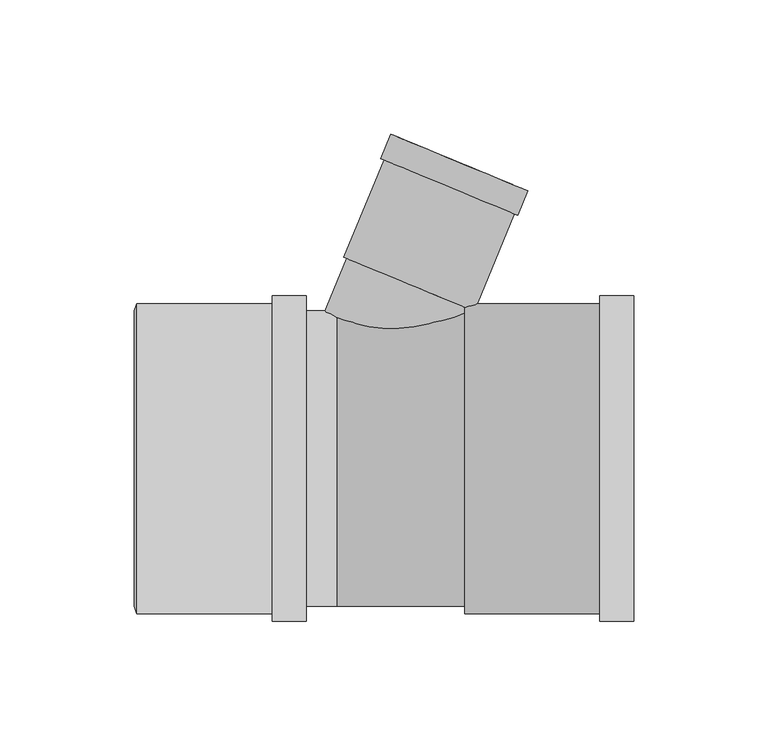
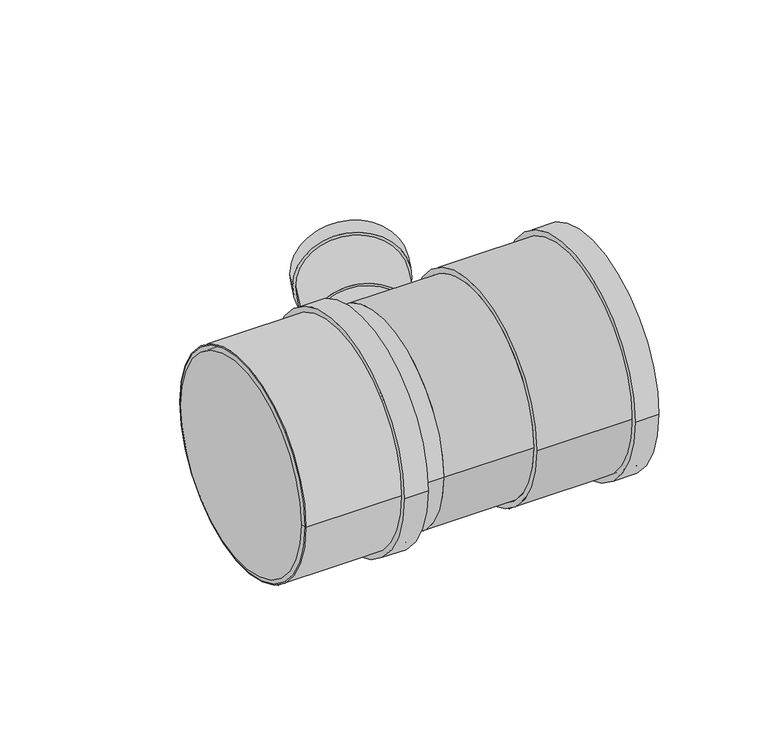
"""IFC4 building model written with IfcOpenShell, lengths in millimetres: pipe fitting geometry, Superdrain HTEA Branch : Superdrain HTEA Branch."""

from ifc_helpers import new_model, si_unit, point, frame, origin, origin_2d, place, context, project, spatial, polyline, circle_curve, trimmed, segment, composite_curve, outline, extrude, source, transform, mapped, element, save
from ifc_brep_helpers import plane_surface, revolved_surface, advanced_brep


def pipe_fitting_8ace9352(model_context):
    return source(origin(), model_context, "Body", "SolidModel", [
        extrude(outline(composite_curve([segment(trimmed(circle_curve(origin_2d(), 57.75), [point((57.75, 0.0))], [point((-57.75, 0.0))], False, "CARTESIAN"), True, "CONTINUOUS"), segment(trimmed(circle_curve(origin_2d(), 57.75), [point((-57.75, 0.0))], [point((57.75, 0.0))], False, "CARTESIAN"), True, "CONTINUOUS")], self_intersect=False), holes=[composite_curve([segment(trimmed(circle_curve(origin_2d(), 55.0), [point((55.0, 0.0))], [point((-55.0, 0.0))], True, "CARTESIAN"), True, "CONTINUOUS"), segment(trimmed(circle_curve(origin_2d(), 55.0), [point((-55.0, 0.0))], [point((55.0, 0.0))], True, "CARTESIAN"), True, "CONTINUOUS")], self_intersect=False)]), frame((-74.4, 0.0, 0.0), z_axis=(1.0, 0.0, 0.0), x_axis=(0.0, 1.0, 0.0)), (0.0, 0.0, 1.0), 63.0),
        extrude(outline(composite_curve([segment(trimmed(circle_curve(origin_2d(), 60.6375), [point((60.6375, 0.0))], [point((-60.6375, 0.0))], False, "CARTESIAN"), True, "CONTINUOUS"), segment(trimmed(circle_curve(origin_2d(), 60.6375), [point((-60.6375, 0.0))], [point((60.6375, 0.0))], False, "CARTESIAN"), True, "CONTINUOUS")], self_intersect=False), holes=[composite_curve([segment(trimmed(circle_curve(origin_2d(), 55.0), [point((55.0, 0.0))], [point((-55.0, 0.0))], True, "CARTESIAN"), True, "CONTINUOUS"), segment(trimmed(circle_curve(origin_2d(), 55.0), [point((-55.0, 0.0))], [point((55.0, 0.0))], True, "CARTESIAN"), True, "CONTINUOUS")], self_intersect=False)]), frame((-24.0, 0.0, 0.0), z_axis=(1.0, 0.0, 0.0), x_axis=(0.0, 1.0, 0.0)), (0.0, 0.0, 1.0), 12.6),
        advanced_brep(
        [(-75.4, 55.0, 0.0), (-75.4, -55.0, 0.0), (-74.4, 57.75, 0.0), (-74.4, -57.75, 0.0)],
        [
            (0, 1, circle_curve(frame((-75.4, 0.0, 0.0), z_axis=(-1.0, 0.0, 0.0), x_axis=(0.0, 1.0, 0.0)), 55.0)),
            (1, 0, circle_curve(frame((-75.4, 0.0, 0.0), z_axis=(-1.0, 0.0, 0.0), x_axis=(0.0, -1.0, 0.0)), 55.0)),
            (2, 3, circle_curve(frame((-74.4, 0.0, 0.0), z_axis=(1.0, 0.0, 0.0), x_axis=(0.0, -1.0, 0.0)), 57.75)),
            (3, 2, circle_curve(frame((-74.4, 0.0, 0.0), z_axis=(1.0, 0.0, 0.0), x_axis=(0.0, 1.0, 0.0)), 57.75)),
            (3, 1),
            (0, 2),
        ],
        [
            plane_surface(frame((-75.4, 0.0, 0.0), z_axis=(-1.0, 0.0, 0.0), x_axis=(0.0, 0.0, -1.0))),
            plane_surface(frame((-74.4, 0.0, 0.0), z_axis=(1.0, 0.0, 0.0), x_axis=(0.0, 0.0, -1.0))),
            revolved_surface(polyline([(-75.4, 55.0, 0.0), (-74.4, 57.75, 0.0)]), (-95.4, 0.0, 0.0), (1.0, 0.0, 0.0)),
            revolved_surface(polyline([(-75.4, -55.0, 0.0), (-74.4, -57.75, 0.0)]), (-95.4, 0.0, 0.0), (1.0, 0.0, 0.0)),
        ],
        [
            (0, [[1, 2]]),
            (1, [[3, 4]]),
            (2, [[-4, 5, -1, 6]]),
            (3, [[-3, -6, -2, -5]]),
        ],
    ),
        extrude(outline(composite_curve([segment(trimmed(circle_curve(origin_2d(), 57.75), [point((-57.75, 0.0))], [point((57.75, 0.0))], False, "CARTESIAN"), True, "CONTINUOUS"), segment(trimmed(circle_curve(origin_2d(), 57.75), [point((57.75, 0.0))], [point((-57.75, 0.0))], False, "CARTESIAN"), True, "CONTINUOUS")], self_intersect=False), holes=[composite_curve([segment(trimmed(circle_curve(origin_2d(), 55.0), [point((55.0, 0.0))], [point((-55.0, 0.0))], True, "CARTESIAN"), True, "CONTINUOUS"), segment(trimmed(circle_curve(origin_2d(), 55.0), [point((-55.0, 0.0))], [point((55.0, 0.0))], True, "CARTESIAN"), True, "CONTINUOUS")], self_intersect=False)]), frame((47.6, 0.0, 0.0), z_axis=(1.0, 0.0, 0.0), x_axis=(0.0, 1.0, 0.0)), (0.0, 0.0, 1.0), 63.0),
        extrude(outline(composite_curve([segment(trimmed(circle_curve(origin_2d(), 60.6375), [point((60.6375, 0.0))], [point((-60.6375, 0.0))], False, "CARTESIAN"), True, "CONTINUOUS"), segment(trimmed(circle_curve(origin_2d(), 60.6375), [point((-60.6375, 0.0))], [point((60.6375, 0.0))], False, "CARTESIAN"), True, "CONTINUOUS")], self_intersect=False), holes=[composite_curve([segment(trimmed(circle_curve(origin_2d(), 55.0), [point((55.0, 0.0))], [point((-55.0, 0.0))], True, "CARTESIAN"), True, "CONTINUOUS"), segment(trimmed(circle_curve(origin_2d(), 55.0), [point((-55.0, 0.0))], [point((55.0, 0.0))], True, "CARTESIAN"), True, "CONTINUOUS")], self_intersect=False)]), frame((98.0, 0.0, 0.0), z_axis=(1.0, 0.0, 0.0), x_axis=(0.0, 1.0, 0.0)), (0.0, 0.0, 1.0), 12.6),
        extrude(outline(composite_curve([segment(trimmed(circle_curve(origin_2d(), 25.0), [point((0.0, 25.0))], [point((0.0, -25.0))], False, "CARTESIAN"), True, "CONTINUOUS"), segment(trimmed(circle_curve(origin_2d(), 25.0), [point((0.0, -25.0))], [point((0.0, 25.0))], False, "CARTESIAN"), True, "CONTINUOUS")], self_intersect=False)), frame((0.0, 0.0, 0.0), z_axis=(0.38268343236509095, 0.9238795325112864, 0.0), x_axis=(0.0, 0.0, 1.0)), (0.0, 0.0, 1.0), 70.3),
        extrude(outline(composite_curve([segment(trimmed(circle_curve(origin_2d(), 55.0), [point((55.0, 0.0))], [point((-55.0, 0.0))], False, "CARTESIAN"), True, "CONTINUOUS"), segment(trimmed(circle_curve(origin_2d(), 55.0), [point((-55.0, 0.0))], [point((55.0, 0.0))], False, "CARTESIAN"), True, "CONTINUOUS")], self_intersect=False)), frame((-74.4, 0.0, 0.0), z_axis=(1.0, 0.0, 0.0), x_axis=(0.0, 1.0, 0.0)), (0.0, 0.0, 1.0), 74.4),
        extrude(outline(composite_curve([segment(trimmed(circle_curve(origin_2d(), 55.0), [point((-55.0, 0.0))], [point((55.0, 0.0))], False, "CARTESIAN"), True, "CONTINUOUS"), segment(trimmed(circle_curve(origin_2d(), 55.0), [point((55.0, 0.0))], [point((-55.0, 0.0))], False, "CARTESIAN"), True, "CONTINUOUS")], self_intersect=False)), frame((0.0, 0.0, 0.0), z_axis=(1.0, 0.0, 0.0), x_axis=(0.0, 1.0, 0.0)), (0.0, 0.0, 1.0), 47.6),
        extrude(outline(composite_curve([segment(trimmed(circle_curve(origin_2d(), 27.5625), [point((0.0, 27.5625001))], [point((0.0, -27.5625))], False, "CARTESIAN"), True, "CONTINUOUS"), segment(trimmed(circle_curve(origin_2d(), 27.5625), [point((0.0, -27.5625))], [point((0.0, 27.5625001))], False, "CARTESIAN"), True, "CONTINUOUS")], self_intersect=False), holes=[composite_curve([segment(trimmed(circle_curve(origin_2d(), 25.0), [point((0.0, 25.0000001))], [point((0.0, -25.0))], True, "CARTESIAN"), True, "CONTINUOUS"), segment(trimmed(circle_curve(origin_2d(), 25.0), [point((0.0, -25.0))], [point((0.0, 25.0000001))], True, "CARTESIAN"), True, "CONTINUOUS")], self_intersect=False)]), frame((41.9038358, 101.1648088, 0.0), z_axis=(0.38268343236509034, 0.9238795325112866, 0.0), x_axis=(0.0, 0.0, 1.0)), (0.0, 0.0, 1.0), 9.8),
        extrude(outline(composite_curve([segment(trimmed(circle_curve(origin_2d(), 26.25), [point((0.0, 26.25))], [point((0.0, -26.25))], False, "CARTESIAN"), True, "CONTINUOUS"), segment(trimmed(circle_curve(origin_2d(), 26.25), [point((0.0, -26.25))], [point((0.0, 26.25))], False, "CARTESIAN"), True, "CONTINUOUS")], self_intersect=False), holes=[composite_curve([segment(trimmed(circle_curve(origin_2d(), 25.0), [point((0.0, 25.0))], [point((0.0, -25.0))], True, "CARTESIAN"), True, "CONTINUOUS"), segment(trimmed(circle_curve(origin_2d(), 25.0), [point((0.0, -25.0))], [point((0.0, 25.0))], True, "CARTESIAN"), True, "CONTINUOUS")], self_intersect=False)]), frame((26.9026453, 64.9487311, 0.0), z_axis=(0.38268343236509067, 0.9238795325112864, 0.0), x_axis=(0.0, 0.0, 1.0)), (0.0, 0.0, 1.0), 49.0),
    ])


if __name__ == "__main__":
    model = new_model("IFC4")
    model_context = context("Model", 3, world=origin())
    ifc_project = project(units=[si_unit("LENGTHUNIT", "METRE", prefix="MILLI")], contexts=[model_context])
    site = spatial("IfcSite", under=ifc_project)
    building = spatial("IfcBuilding", under=site)
    placement = place(None, origin())
    pipe_fitting_shape = pipe_fitting_8ace9352(model_context)
    element("IfcPipeFitting", 1, ObjectType="Superdrain HTEA Branch : Superdrain HTEA Branch", at=placement, inside=building, context=model_context, shape_type="MappedRepresentation", body=[
        mapped(pipe_fitting_shape, transform((0.0, 0.0, 0.0), x_axis=(1.0, 0.0, 0.0), y_axis=(0.0, 1.0, 0.0), z_axis=(0.0, 0.0, 1.0))),
    ])
    save(model, "model.ifc")
